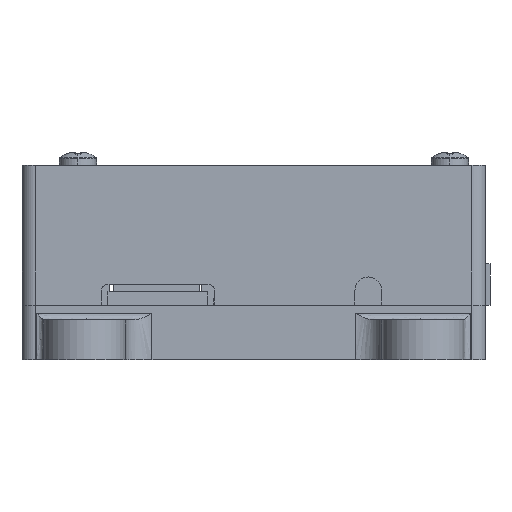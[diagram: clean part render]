
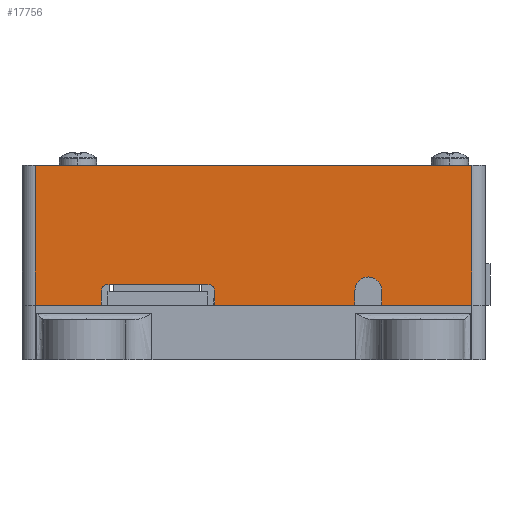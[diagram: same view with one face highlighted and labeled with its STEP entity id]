
A CAD part, left-side view. The second image highlights one B-rep face of the part: STEP entity #17756.
In plain terms, the highlighted free-form (B-spline) face has degree [1, 1] with [2, 2] control points.
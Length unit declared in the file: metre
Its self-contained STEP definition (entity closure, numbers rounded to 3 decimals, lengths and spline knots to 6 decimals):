
#360=B_SPLINE_SURFACE_WITH_KNOTS('',1,1,((#29684,#29685),(#29686,#29687)),
 .PLANE_SURF.,.F.,.F.,.F.,(2,2),(2,2),(0.,1.),(0.,1.),.UNSPECIFIED.);
#1344=LINE('',#28921,#3057);
#1472=LINE('',#29217,#3185);
#1552=LINE('',#29488,#3265);
#1578=LINE('',#29569,#3291);
#1623=LINE('',#29688,#3336);
#1624=LINE('',#29689,#3337);
#1625=LINE('',#29693,#3338);
#1626=LINE('',#29697,#3339);
#1627=LINE('',#29698,#3340);
#1628=LINE('',#29702,#3341);
#1629=LINE('',#29703,#3342);
#3057=VECTOR('',#20535,1.);
#3185=VECTOR('',#20685,1.);
#3265=VECTOR('',#20801,1.);
#3291=VECTOR('',#20855,1.);
#3336=VECTOR('',#20916,1.);
#3337=VECTOR('',#20917,1.);
#3338=VECTOR('',#20920,1.);
#3339=VECTOR('',#20923,1.);
#3340=VECTOR('',#20924,1.);
#3341=VECTOR('',#20927,1.);
#3342=VECTOR('',#20928,1.);
#7603=ORIENTED_EDGE('',*,*,#11176,.F.);
#7604=ORIENTED_EDGE('',*,*,#11510,.T.);
#7605=ORIENTED_EDGE('',*,*,#11319,.T.);
#7606=ORIENTED_EDGE('',*,*,#11511,.T.);
#7607=ORIENTED_EDGE('',*,*,#11512,.F.);
#7608=ORIENTED_EDGE('',*,*,#11513,.T.);
#7609=ORIENTED_EDGE('',*,*,#11514,.F.);
#7610=ORIENTED_EDGE('',*,*,#11515,.F.);
#7611=ORIENTED_EDGE('',*,*,#11417,.T.);
#7612=ORIENTED_EDGE('',*,*,#11516,.T.);
#7613=ORIENTED_EDGE('',*,*,#11517,.T.);
#7614=ORIENTED_EDGE('',*,*,#11518,.T.);
#7615=ORIENTED_EDGE('',*,*,#11457,.T.);
#7616=ORIENTED_EDGE('',*,*,#11519,.T.);
#11176=EDGE_CURVE('',#13341,#13342,#1344,.T.);
#11319=EDGE_CURVE('',#13483,#13484,#1472,.T.);
#11417=EDGE_CURVE('',#13561,#13563,#1552,.T.);
#11457=EDGE_CURVE('',#13589,#13588,#1578,.T.);
#11510=EDGE_CURVE('',#13341,#13483,#1623,.T.);
#11511=EDGE_CURVE('',#13484,#13623,#1624,.T.);
#11512=EDGE_CURVE('',#13624,#13623,#14642,.T.);
#11513=EDGE_CURVE('',#13624,#13625,#1625,.T.);
#11514=EDGE_CURVE('',#13626,#13625,#14643,.T.);
#11515=EDGE_CURVE('',#13561,#13626,#1626,.T.);
#11516=EDGE_CURVE('',#13563,#13627,#1627,.T.);
#11517=EDGE_CURVE('',#13627,#13628,#14644,.T.);
#11518=EDGE_CURVE('',#13628,#13589,#1628,.T.);
#11519=EDGE_CURVE('',#13588,#13342,#1629,.F.);
#13341=VERTEX_POINT('',#28920);
#13342=VERTEX_POINT('',#28922);
#13483=VERTEX_POINT('',#29218);
#13484=VERTEX_POINT('',#29219);
#13561=VERTEX_POINT('',#29483);
#13563=VERTEX_POINT('',#29487);
#13588=VERTEX_POINT('',#29568);
#13589=VERTEX_POINT('',#29570);
#13623=VERTEX_POINT('',#29690);
#13624=VERTEX_POINT('',#29692);
#13625=VERTEX_POINT('',#29694);
#13626=VERTEX_POINT('',#29696);
#13627=VERTEX_POINT('',#29699);
#13628=VERTEX_POINT('',#29701);
#14642=CIRCLE('',#18982,0.001);
#14643=CIRCLE('',#18983,0.001);
#14644=CIRCLE('',#18984,0.002);
#15304=EDGE_LOOP('',(#7603,#7604,#7605,#7606,#7607,#7608,#7609,#7610,#7611,
#7612,#7613,#7614,#7615,#7616));
#16406=FACE_BOUND('',#15304,.T.);
#17756=ADVANCED_FACE('',(#16406),#360,.F.);
#18982=AXIS2_PLACEMENT_3D('',#29691,#20918,#20919);
#18983=AXIS2_PLACEMENT_3D('',#29695,#20921,#20922);
#18984=AXIS2_PLACEMENT_3D('',#29700,#20925,#20926);
#20535=DIRECTION('',(0.,-1.,0.));
#20685=DIRECTION('',(0.,-1.,0.));
#20801=DIRECTION('',(0.,-1.,0.));
#20855=DIRECTION('',(0.,-1.,0.));
#20916=DIRECTION('',(0.,0.,-1.));
#20917=DIRECTION('',(0.,0.,1.));
#20918=DIRECTION('',(-1.,0.,0.));
#20919=DIRECTION('',(0.,-1.,0.));
#20920=DIRECTION('',(0.,-1.,0.));
#20921=DIRECTION('',(-1.,0.,0.));
#20922=DIRECTION('',(0.,-1.,0.));
#20923=DIRECTION('',(0.,0.,1.));
#20924=DIRECTION('',(0.,0.,1.));
#20925=DIRECTION('',(1.,0.,0.));
#20926=DIRECTION('',(0.,1.,0.));
#20927=DIRECTION('',(0.,0.,-1.));
#20928=DIRECTION('',(0.,0.,-1.));
#28920=CARTESIAN_POINT('',(-0.0023,0.0652,0.021));
#28921=CARTESIAN_POINT('',(-0.0023,0.03245,0.021));
#28922=CARTESIAN_POINT('',(-0.0023,-0.0003,0.021));
#29217=CARTESIAN_POINT('',(-0.0023,0.03245,0.));
#29218=CARTESIAN_POINT('',(-0.0023,0.0652,0.));
#29219=CARTESIAN_POINT('',(-0.0023,0.0553,0.));
#29483=CARTESIAN_POINT('',(-0.0023,0.0383,0.));
#29487=CARTESIAN_POINT('',(-0.0023,0.01725,0.));
#29488=CARTESIAN_POINT('',(-0.0023,0.03245,0.));
#29568=CARTESIAN_POINT('',(-0.0023,-0.0003,0.));
#29569=CARTESIAN_POINT('',(-0.0023,0.03245,0.));
#29570=CARTESIAN_POINT('',(-0.0023,0.01325,0.));
#29684=CARTESIAN_POINT('',(-0.0023,-0.0003,0.));
#29685=CARTESIAN_POINT('',(-0.0023,-0.0003,0.021));
#29686=CARTESIAN_POINT('',(-0.0023,0.0652,0.));
#29687=CARTESIAN_POINT('',(-0.0023,0.0652,0.021));
#29688=CARTESIAN_POINT('',(-0.0023,0.0652,0.));
#29689=CARTESIAN_POINT('',(-0.0023,0.0553,0.00105));
#29690=CARTESIAN_POINT('',(-0.0023,0.0553,0.0021));
#29691=CARTESIAN_POINT('',(-0.0023,0.0543,0.0021));
#29692=CARTESIAN_POINT('',(-0.0023,0.0543,0.0031));
#29693=CARTESIAN_POINT('',(-0.0023,0.0468,0.0031));
#29694=CARTESIAN_POINT('',(-0.0023,0.0393,0.0031));
#29695=CARTESIAN_POINT('',(-0.0023,0.0393,0.0021));
#29696=CARTESIAN_POINT('',(-0.0023,0.0383,0.0021));
#29697=CARTESIAN_POINT('',(-0.0023,0.0383,0.00105));
#29698=CARTESIAN_POINT('',(-0.0023,0.01725,0.019002));
#29699=CARTESIAN_POINT('',(-0.0023,0.01725,0.00225));
#29700=CARTESIAN_POINT('',(-0.0023,0.01525,0.00225));
#29701=CARTESIAN_POINT('',(-0.0023,0.01325,0.00225));
#29702=CARTESIAN_POINT('',(-0.0023,0.01325,0.019002));
#29703=CARTESIAN_POINT('',(-0.0023,-0.0003,0.019002));
